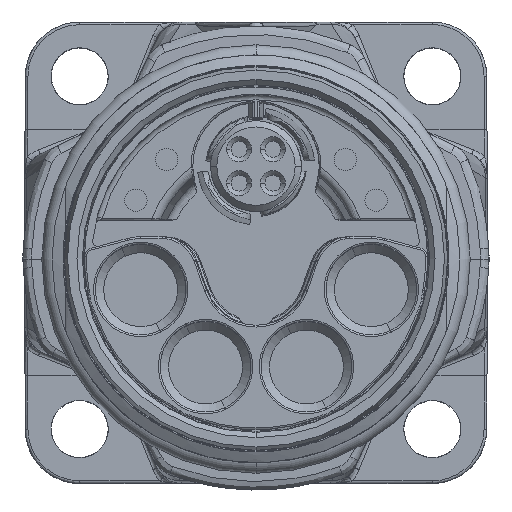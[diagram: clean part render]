
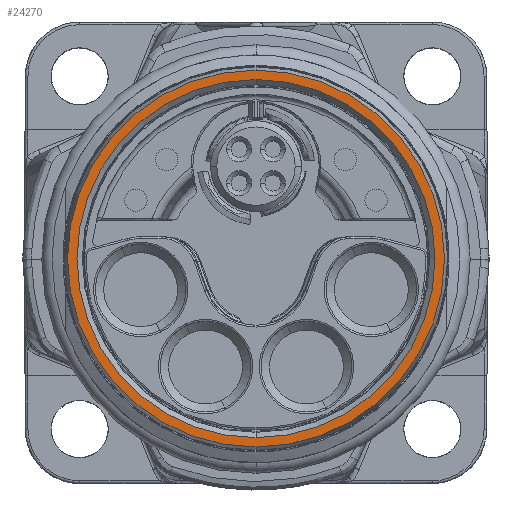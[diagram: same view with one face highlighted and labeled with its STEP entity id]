
A CAD part, top view. The second image highlights one B-rep face of the part: STEP entity #24270.
In plain terms, the highlighted planar face has unit normal (0, 0, 1).
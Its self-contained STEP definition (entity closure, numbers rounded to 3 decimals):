
#3049=CARTESIAN_POINT('',(0.,0.,16.15));
#3050=DIRECTION('',(0.,0.,1.));
#3051=DIRECTION('',(0.,1.,0.));
#3052=AXIS2_PLACEMENT_3D('',#3049,#3050,#3051);
#3054=CARTESIAN_POINT('',(0.,0.,16.15));
#3055=DIRECTION('',(0.,0.,-1.));
#3056=DIRECTION('',(0.,1.,0.));
#3057=AXIS2_PLACEMENT_3D('',#3054,#3055,#3056);
#3059=CARTESIAN_POINT('',(0.,0.,16.15));
#3060=DIRECTION('',(0.,0.,1.));
#3061=DIRECTION('',(0.,1.,0.));
#3062=AXIS2_PLACEMENT_3D('',#3059,#3060,#3061);
#3064=CARTESIAN_POINT('',(0.,0.,16.15));
#3065=DIRECTION('',(0.,0.,1.));
#3066=DIRECTION('',(0.,-1.,0.));
#3067=AXIS2_PLACEMENT_3D('',#3064,#3065,#3066);
#17396=CARTESIAN_POINT('',(0.,10.578,16.15));
#17398=VERTEX_POINT('',#17396);
#17404=CARTESIAN_POINT('',(0.,-10.578,16.15));
#17406=VERTEX_POINT('',#17404);
#17407=CARTESIAN_POINT('',(0.,10.05,16.15));
#17408=CARTESIAN_POINT('',(0.,-10.05,16.15));
#17409=VERTEX_POINT('',#17407);
#17410=VERTEX_POINT('',#17408);
#24255=CARTESIAN_POINT('',(0.,0.,16.15));
#24256=DIRECTION('',(0.,0.,-1.));
#24257=DIRECTION('',(0.,-1.,0.));
#24258=AXIS2_PLACEMENT_3D('',#24255,#24256,#24257);
#24259=PLANE('',#24258);
#24260=ORIENTED_EDGE('',*,*,#24220,.F.);
#24261=ORIENTED_EDGE('',*,*,#24243,.T.);
#24262=EDGE_LOOP('',(#24260,#24261));
#24263=FACE_OUTER_BOUND('',#24262,.F.);
#24265=ORIENTED_EDGE('',*,*,#24264,.T.);
#24267=ORIENTED_EDGE('',*,*,#24266,.T.);
#24268=EDGE_LOOP('',(#24265,#24267));
#24269=FACE_BOUND('',#24268,.F.);
#3053=CIRCLE('',#3052,10.578);
#3058=CIRCLE('',#3057,10.578);
#3063=CIRCLE('',#3062,10.05);
#3068=CIRCLE('',#3067,10.05);
#24220=EDGE_CURVE('',#17398,#17406,#3053,.T.);
#24243=EDGE_CURVE('',#17398,#17406,#3058,.T.);
#24264=EDGE_CURVE('',#17409,#17410,#3063,.T.);
#24266=EDGE_CURVE('',#17410,#17409,#3068,.T.);
#24270=ADVANCED_FACE('',(#24263,#24269),#24259,.F.);
